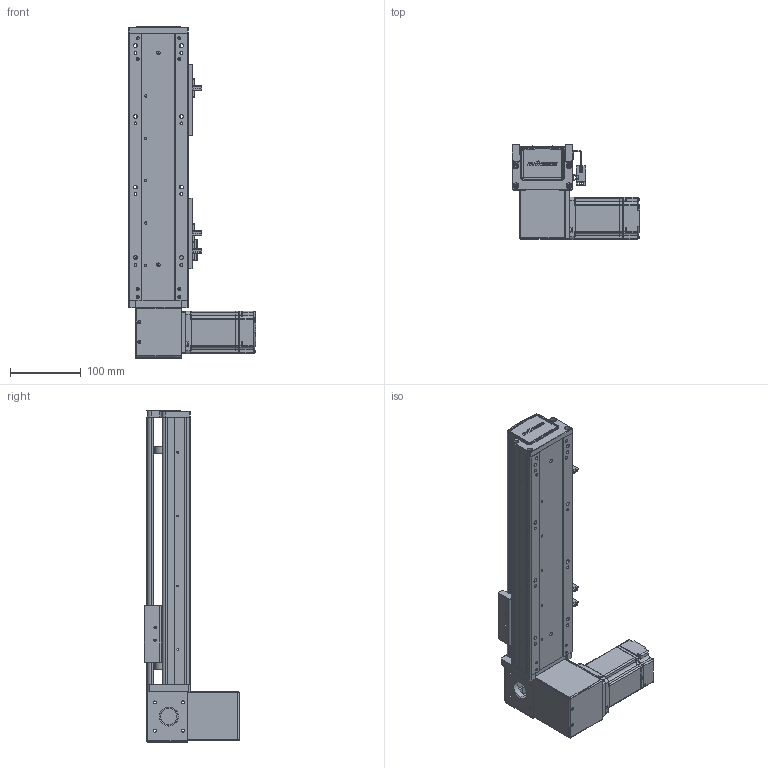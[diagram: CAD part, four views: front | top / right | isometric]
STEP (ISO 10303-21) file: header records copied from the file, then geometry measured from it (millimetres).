
FILE_DESCRIPTION (( 'STEP AP203' ), '1' );
FILE_NAME ('RY80-T-300-DR.SLDASM_200.step', '2021-03-01T01:49:04', ( '盈信电脑' ), ( '东莞市道滘镇水果街19号' ), 'SwSTEP 2.0', 'SolidWorks 2012', '' );
FILE_SCHEMA (( 'CONFIG_CONTROL_DESIGN' ));
Products named in the file (18): RY80-T-M4蹟翐3; 1; RY80-T-300-DR.SLDASM_200; RY80-T-上下折同步轮盖板; RY80-T萇儂假蚾啣; RY80-T肮祭謫狟殏俋欶; RY80-T肮祭湍揤輸2; RY80-T肮祭湍揤輸1; 滅袉蝶18-10; RY80-T翋肮祭謫裔啣; RY80-T-翋肮祭謫釱; RY80俋离覜茼え; 672嫖萇羲壽假蚾釱; 覜茼ん672; RY80-T-300-DR倰第奻裔啣_200; RY80-T綴裔啣; RY80-T-300-DR倰第菁釱_200; RY80-T肮祭謫臏賑輸
Assembly tree (21 placements, depth 2):
  RY80-T-300-DR.SLDASM_200
    RY80-T-300-DR倰第菁釱_200
    RY80-T肮祭謫臏賑輸
    RY80-T-300-DR倰第奻裔啣_200
    RY80-T綴裔啣
    672嫖萇羲壽假蚾釱  x2
    覜茼ん672  x3
    RY80俋离覜茼え
    RY80-T-翋肮祭謫釱
    RY80-T肮祭湍揤輸1
    RY80-T肮祭湍揤輸2
    滅袉蝶18-10  x2
    RY80-T翋肮祭謫裔啣
    RY80-T-上下折同步轮盖板
    RY80-T肮祭謫狟殏俋欶
    RY80-T萇儂假蚾啣
    1
    RY80-T-M4蹟翐3
Bounding box: 180 x 134.5 x 470 mm (x, y, z)
Volume: 1129544.8 mm3; surface area: 437846.1 mm2
Topology: 21 solids, 21 shells, 2287 faces, 6287 edges, 4080 vertices
Faces by surface type: plane 1285, cylinder 809, cone 137, bspline 56
Entity records: 71408 total; most frequent: CARTESIAN_POINT 16550, ORIENTED_EDGE 11218, DIRECTION 10644, EDGE_CURVE 5609, VERTEX_POINT 3684, LINE 3600, VECTOR 3600, AXIS2_PLACEMENT_3D 3522
